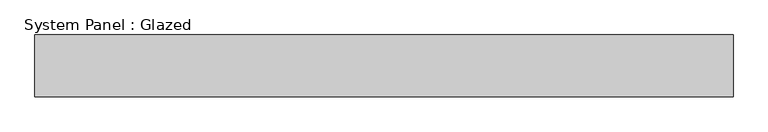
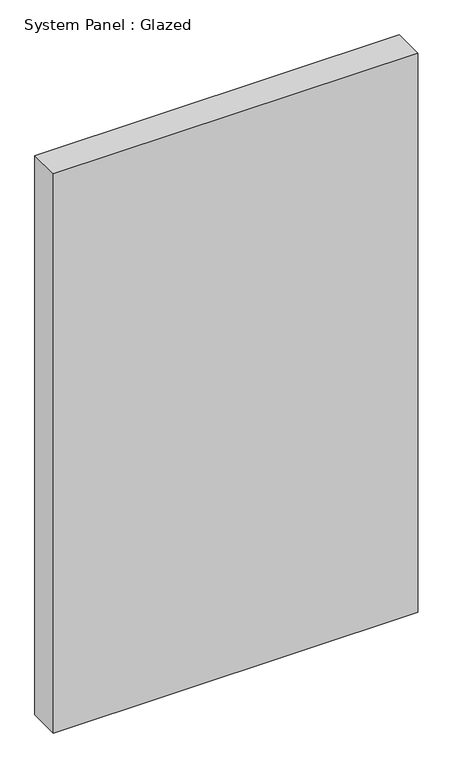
"""IFC4 building model written with IfcOpenShell, lengths in millimetres: plate geometry, System Panel : Glazed."""

from ifc_helpers import new_model, si_unit, origin, origin_with_axes, place, context, project, spatial, polyline, outline, extrude, source, transform, mapped, element, save


def system_panel_glazed_cc63b6be(model_context):
    return source(origin(), model_context, "Body", "SweptSolid", [
        extrude(outline(polyline([(566.4585307, 50.0), (-566.4585307, 50.0), (-566.4585307, 150.0), (566.4585307, 150.0), (566.4585307, 50.0)])), origin_with_axes(), (0.0, 0.0, 1.0), 1838.3368511),
    ])


if __name__ == "__main__":
    model = new_model("IFC4")
    model_context = context("Model", 3, world=origin())
    ifc_project = project(units=[si_unit("LENGTHUNIT", "METRE", prefix="MILLI")], contexts=[model_context])
    site = spatial("IfcSite", under=ifc_project)
    building = spatial("IfcBuilding", under=site)
    placement = place(None, origin())
    system_panel_glazed_shape = system_panel_glazed_cc63b6be(model_context)
    element("IfcPlate", 1, ObjectType="System Panel : Glazed", at=placement, inside=building, context=model_context, shape_type="MappedRepresentation", body=[
        mapped(system_panel_glazed_shape, transform((0.0, 0.0, 0.0), x_axis=(1.0, 0.0, 0.0), y_axis=(0.0, 1.0, 0.0), z_axis=(0.0, 0.0, 1.0))),
    ])
    save(model, "model.ifc")
